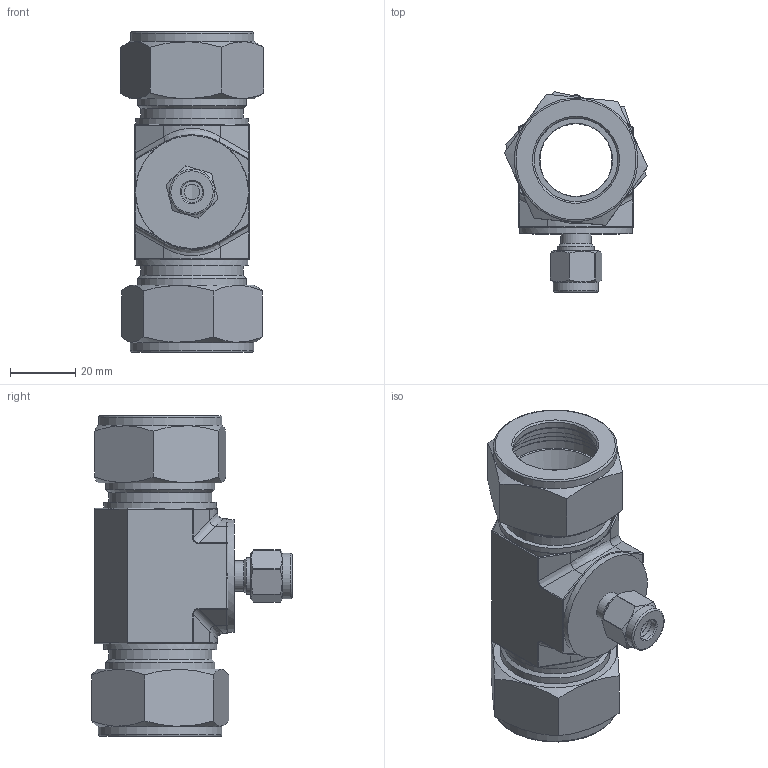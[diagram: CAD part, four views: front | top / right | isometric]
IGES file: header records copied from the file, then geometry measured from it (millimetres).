
Global section: file name: No Iges File Name specified; native system: Autodesk Inventor 2012; preprocessor: AutoDesk Inventor Iges Exporter R2012; author: 硅己绕,,1; organization: 1; date: 20150505.153932; units: millimetre
Bounding box: 43.78 x 61.39 x 98.12 mm (x, y, z)
Volume: 63280.7 mm3; surface area: 29730.7 mm2
Topology: 4 solids, 4 shells, 204 faces, 430 edges, 249 vertices
Faces by surface type: plane 68, cylinder 53, revolution 37, cone 18, sphere 12, torus 10, bspline 6
Full cylindrical faces by diameter (mm): 9.298 x1, 9.398 x1, 11.098 x1, 13.9 x1, 31.45 x4, 33.34 x2, 34.5 x3, 37.8 x2
